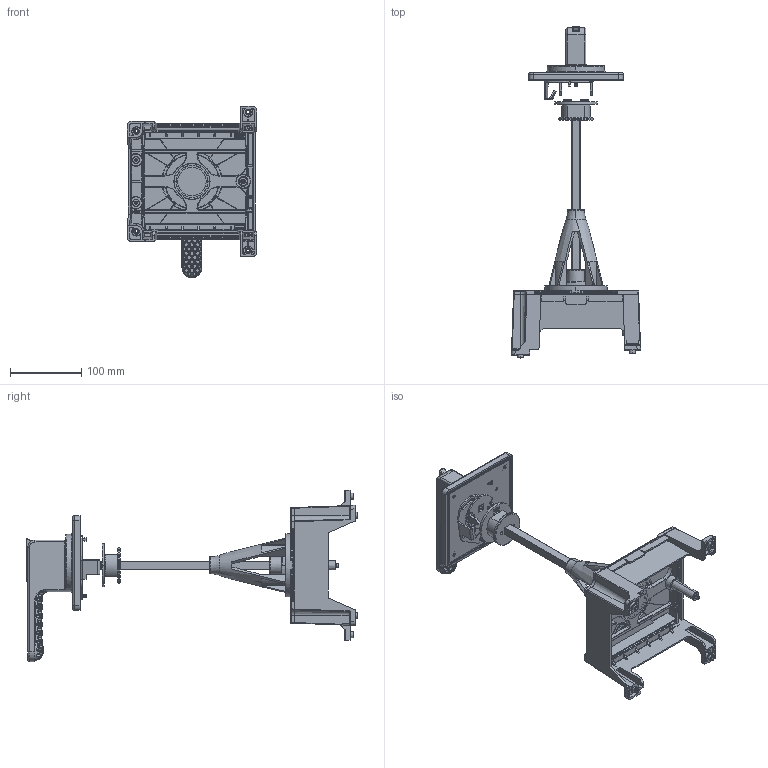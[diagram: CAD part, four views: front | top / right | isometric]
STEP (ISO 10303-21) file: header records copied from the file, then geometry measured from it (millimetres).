
FILE_DESCRIPTION(/* description */ (''),/* implementation_level */ '2;1');
FILE_NAME(/* name */ 'TFH80GP_3D DATA.stp',/* time_stamp */ '2018-06-05T13:35:30+09:00',/* author */ (''),/* organization */ (''),/* preprocessor_version */ 'ST-DEVELOPER v15',/* originating_system */ 'SIEMENS PLM Software NX 9.0',/* authorisation */ '');
FILE_SCHEMA (('AP203_CONFIGURATION_CONTROLLED_3D_DESIGN_OF_MECHANICAL_PARTS_AND_ASSEMBLIES_MIM_LF { 1 0 10303 403 2 1 2}'));
Products named in the file (29): M4_L12_PH_SCREW117828; D4_ASSY2_SPRING_WASHER118019; U8_HM_HANDLE_EX_INSERT_COVER186861; U8_HM_FRAME; U8_HM_FRAME_COVER; U8_HM_ROLL_B_RING67710; U8_HM_TRIP_BUTTON; M4_HEX_NUT118750; M4_L12_HEX_SOCKET_BOLT119494; U8_HM_HANDLE173613; U8_HM_COVER_PLATE265876; U8_HM_ON_OFF_U_LEVER267926; U8_HM_RELEASE_PIN271360; U8_HM_DOOR_LOCK_PLATE273326; U8_HM_SEALING273785; U8_HM_KEY_LOCK_CAP279762; U8_HM_ON_OFF_LABEL290822; U8_HM_ROLL_A_RING303482; U8_HM_ON_OFF_D_LEVER304159; U8_HM_LONG_SHAFT305697; U8_HM_STOP_BOLT306484; M4_L30_PH_TAPPING_SCREW307806; U8_HM_BAR_SUPPORTER315946; M4_L12_SW_PH_SCREW_ASM117838; U8_HM_TFH_FRAME_ASSY_ASM; U8_HM_HANDLE_COVER_ASM186870; U8_HM_HANDLE_ASSY_ASM173623; U8_HM_LONG_SHAFT_ASSY_ASM303492; u8_tfh_80gp_asm_stp
Assembly tree (32 placements, depth 4):
  u8_tfh_80gp_asm_stp
    U8_HM_BAR_SUPPORTER315946
    U8_HM_LONG_SHAFT_ASSY_ASM303492
      M4_L30_PH_TAPPING_SCREW307806
      U8_HM_STOP_BOLT306484  x2
      U8_HM_LONG_SHAFT305697
      U8_HM_ON_OFF_D_LEVER304159
      U8_HM_ROLL_A_RING303482
    U8_HM_HANDLE_ASSY_ASM173623
      U8_HM_ON_OFF_LABEL290822
      U8_HM_KEY_LOCK_CAP279762
      U8_HM_SEALING273785
      U8_HM_DOOR_LOCK_PLATE273326
      U8_HM_RELEASE_PIN271360
      U8_HM_ON_OFF_U_LEVER267926
      U8_HM_COVER_PLATE265876
      U8_HM_HANDLE_COVER_ASM186870
        U8_HM_HANDLE_EX_INSERT_COVER186861
      U8_HM_HANDLE173613
    U8_HM_TFH_FRAME_ASSY_ASM
      M4_L12_HEX_SOCKET_BOLT119494
      M4_HEX_NUT118750
      M4_L12_SW_PH_SCREW_ASM117838  x4
        D4_ASSY2_SPRING_WASHER118019
        M4_L12_PH_SCREW117828
      U8_HM_TRIP_BUTTON
      U8_HM_ROLL_B_RING67710
      U8_HM_FRAME_COVER
      U8_HM_FRAME
Bounding box: 180.9 x 464.5 x 239.7 mm (x, y, z)
Volume: 691928 mm3; surface area: 516376.3 mm2
Topology: 30 solids, 30 shells, 4599 faces, 11404 edges, 7038 vertices
Faces by surface type: plane 1601, cylinder 1383, bspline 514, torus 495, cone 263, sphere 222, extrusion 121
Full cylindrical faces by diameter (mm): 49.5 x1
Entity records: 182465 total; most frequent: CARTESIAN_POINT 76937, ORIENTED_EDGE 22012, DIRECTION 20729, EDGE_CURVE 11006, AXIS2_PLACEMENT_3D 7801, VERTEX_POINT 6782, VECTOR 5127, LINE 5006
